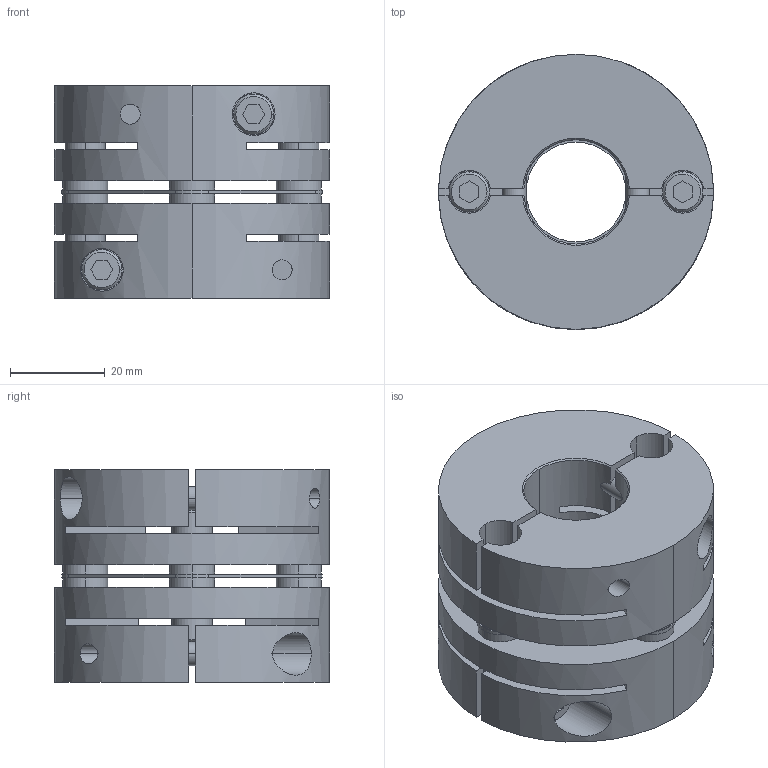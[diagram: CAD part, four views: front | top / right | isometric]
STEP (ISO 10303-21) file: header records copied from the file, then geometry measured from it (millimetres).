
FILE_DESCRIPTION((''),'2;1');
FILE_NAME('LAS-58C-22×25.stp','2015-10-15T14:58:04',(''),(''),'AutoCAD STEP 2000i','AutoCAD 2000i',', , ');
FILE_SCHEMA(('CONFIG_CONTROL_DESIGN'));
Length unit declared in the file: millimetre
Products named in the file (6): LAS-58C-12×19; 忣兜1; LA-5802-D19; LA-5802-D12-1; LA-5802-D12; LAS58-ITA
Assembly tree (5 placements, depth 2):
  LAS-58C-12×19
    忣兜1
    LA-5802-D19
    LA-5802-D12-1
    LA-5802-D12
    LAS58-ITA
Bounding box: 58 x 58 x 44.8 mm (x, y, z)
Volume: 79648.5 mm3; surface area: 32366.6 mm2
Topology: 1 solids, 1 shells, 238 faces, 630 edges, 412 vertices
Faces by surface type: plane 114, cylinder 96, cone 28
Entity records: 8409 total; most frequent: CARTESIAN_POINT 2128, DIRECTION 1320, ORIENTED_EDGE 1264, EDGE_CURVE 632, AXIS2_PLACEMENT_3D 484, VERTEX_POINT 412, VECTOR 352, LINE 352
